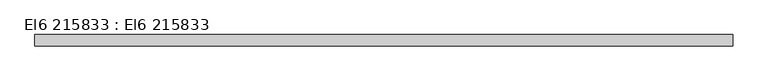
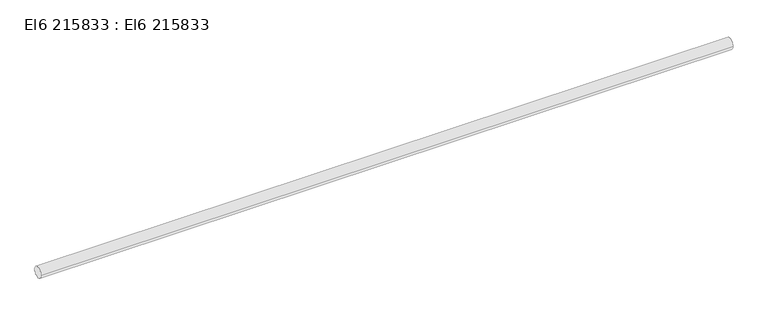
"""IFC4 building model written with IfcOpenShell, lengths in millimetres: cable carrier segment geometry, El6 215833 : El6 215833."""

from ifc_helpers import new_model, si_unit, point, frame, frame_2d, origin, place, context, project, spatial, circle_curve, trimmed, segment, composite_curve, outline, extrude, source, transform, mapped, element, save


def el6_215833_el6_215833_15f88706(model_context):
    return source(origin(), model_context, "Body", "SweptSolid", [
        extrude(outline(composite_curve([segment(trimmed(circle_curve(frame_2d((17022.1, 4200.0)), 9.5), [point((17012.6, 4200.0))], [point((17031.6, 4200.0))], False, "CARTESIAN"), True, "CONTINUOUS"), segment(trimmed(circle_curve(frame_2d((17022.1, 4200.0)), 9.5), [point((17031.6, 4200.0))], [point((17012.6, 4200.0))], False, "CARTESIAN"), True, "CONTINUOUS")], self_intersect=False)), frame((13705.0, 0.0, 0.0), z_axis=(1.0, 0.0, 0.0), x_axis=(0.0, 1.0, 0.0)), (0.0, 0.0, 1.0), 1180.0),
    ])


if __name__ == "__main__":
    model = new_model("IFC4")
    model_context = context("Model", 3, world=origin())
    ifc_project = project(units=[si_unit("LENGTHUNIT", "METRE", prefix="MILLI")], contexts=[model_context])
    site = spatial("IfcSite", under=ifc_project)
    building = spatial("IfcBuilding", under=site)
    placement = place(None, origin())
    el6_215833_el6_215833_shape = el6_215833_el6_215833_15f88706(model_context)
    element("IfcCableCarrierSegment", 1, ObjectType="El6 215833 : El6 215833", at=placement, inside=building, context=model_context, shape_type="MappedRepresentation", body=[
        mapped(el6_215833_el6_215833_shape, transform((0.0, 0.0, 0.0), x_axis=(1.0, 0.0, 0.0), y_axis=(0.0, 1.0, 0.0), z_axis=(0.0, 0.0, 1.0))),
    ])
    save(model, "model.ifc")
